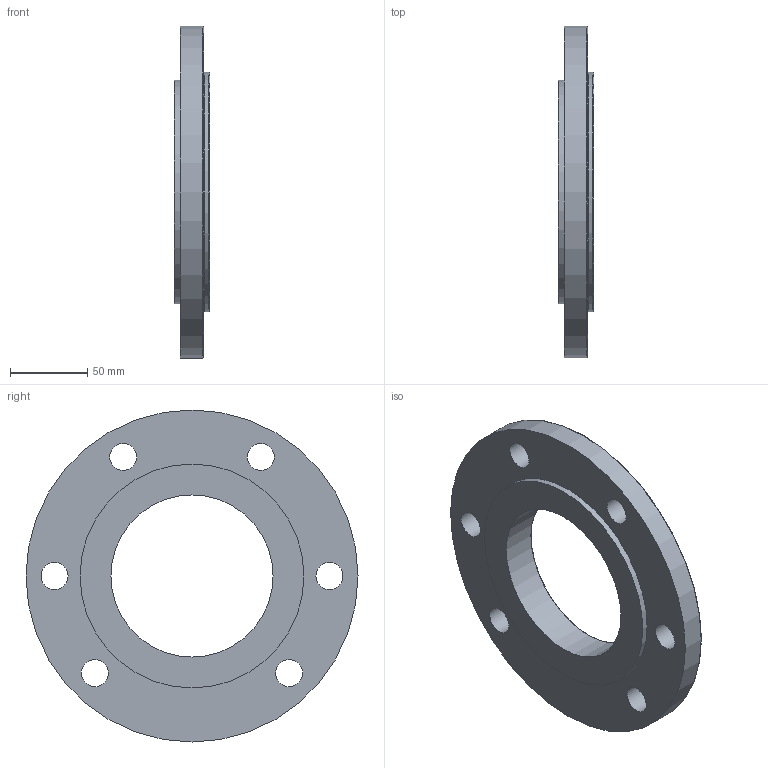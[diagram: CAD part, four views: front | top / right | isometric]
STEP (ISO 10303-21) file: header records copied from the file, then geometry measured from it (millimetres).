
FILE_DESCRIPTION((''),'2;1');
FILE_NAME('D:\PAWEŁ\ZLECENIA\2011 DualSystem\001 Modele\DKAB80_\DK_80_STEP\AZ_80.stp','2012-05-14T22:18:18',('admin'),(''),'Autodesk Inventor 2009','Autodesk Inventor 2009','');
FILE_SCHEMA(('AUTOMOTIVE_DESIGN { 1 0 10303 214 1 1 1 1 }'));
Length unit declared in the file: millimetre
Products named in the file (1): AZ_80
Bounding box: 23 x 215 x 215 mm (x, y, z)
Volume: 465228.7 mm3; surface area: 78416.2 mm2
Topology: 1 solids, 1 shells, 18 faces, 44 edges, 30 vertices
Faces by surface type: bspline 7, cylinder 4, plane 4, torus 3
Full cylindrical faces by diameter (mm): 105 x1, 145 x1, 155 x1, 215 x1
Entity records: 596 total; most frequent: CARTESIAN_POINT 213, DIRECTION 72, ORIENTED_EDGE 48, EDGE_LOOP 48, AXIS2_PLACEMENT_3D 36, FACE_BOUND 30, VERTEX_POINT 24, CIRCLE 24
